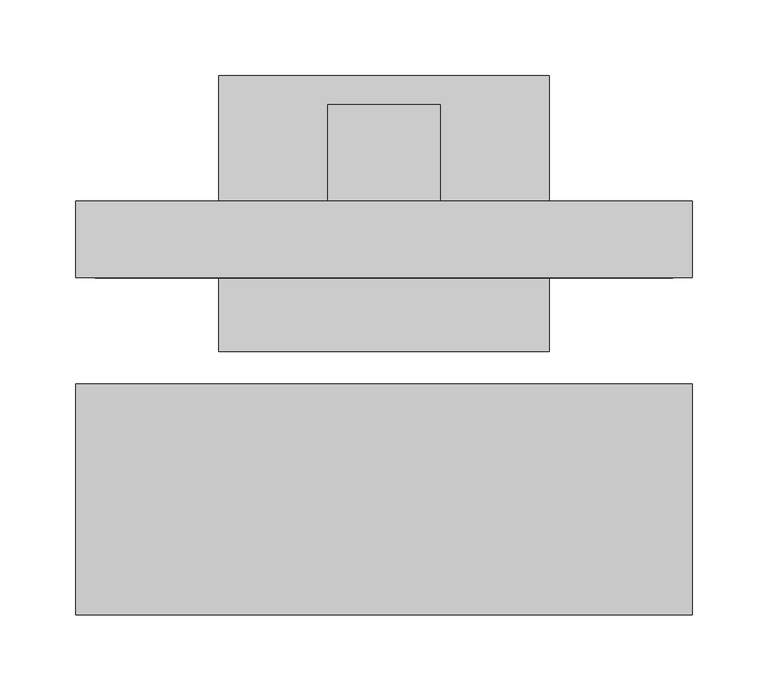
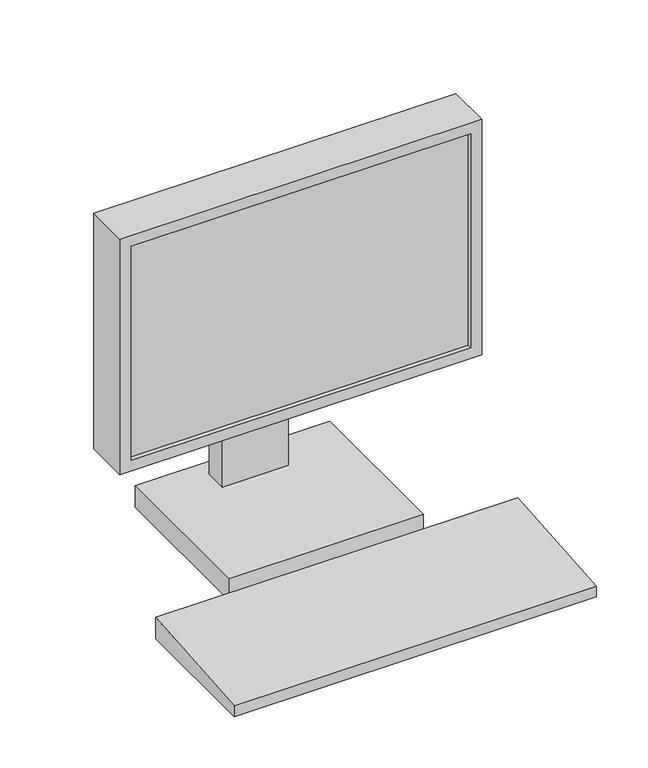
"""IFC4 building model written with IfcOpenShell, lengths in millimetres: proxy geometry, M3150 - Distribution System, Medication, Automatic : M3150 - Distribution System, Medication, Automatic."""

from ifc_helpers import new_model, si_unit, frame, origin, place, context, project, spatial, polyline, outline, extrude, faceted_brep, source, transform, mapped, element, save


def specialty_equipment_54ba1bf3(model_context):
    return source(origin(), model_context, "Body", "SolidModel", [
        faceted_brep([(203.2, -87.8296449, 1495.425), (-203.2, -87.8296449, 1495.425), (-203.2, -138.4610259, 1495.425), (203.2, -138.4610259, 1495.425), (203.2, -87.8296449, 1216.025), (203.2, -138.4610259, 1216.025), (-203.2, -138.4610259, 1216.025), (-203.2, -87.8296449, 1216.025), (-190.5, -138.4610259, 1482.725), (190.5, -138.4610259, 1482.725), (190.5, -138.4610259, 1228.725), (-190.5, -138.4610259, 1228.725), (190.5, -133.6748235, 1482.725), (-190.5, -133.6748235, 1482.725), (190.5, -133.6748235, 1228.725), (-190.5, -133.6748235, 1228.725)], [[[0, 1, 2, 3]], [[4, 5, 6, 7]], [[1, 0, 4, 7]], [[2, 1, 7, 6]], [[3, 2, 6, 5], [8, 9, 10, 11]], [[0, 3, 5, 4]], [[12, 9, 8, 13]], [[14, 15, 11, 10]], [[12, 13, 15, 14]], [[13, 8, 11, 15]], [[9, 12, 14, 10]]]),
        faceted_brep([(109.1218395, -187.0277093, 1089.025), (109.1218395, -187.0277093, 1063.625), (109.1218395, -5.1953354, 1063.625), (109.1218395, -5.1953354, 1089.025), (-109.1218395, -5.1953354, 1089.025), (-109.1218395, -5.1953354, 1063.625), (-109.1218395, -187.0277093, 1063.625), (-109.1218395, -187.0277093, 1089.025), (36.9685686, -24.3296449, 1095.375), (36.9685686, -24.3296449, 1089.025), (-36.9685686, -24.3296449, 1089.025), (-36.9685686, -24.3296449, 1095.375), (36.9685686, -24.3296449, 1355.725), (-36.9685686, -24.3296449, 1355.725), (36.9685686, -87.8296449, 1355.725), (-36.9685686, -87.8296449, 1355.725), (36.9685686, -87.8296449, 1304.925), (-36.9685686, -87.8296449, 1304.925), (36.9685686, -49.7296449, 1304.925), (-36.9685686, -49.7296449, 1304.925), (36.9685686, -49.7296449, 1089.025), (-36.9685686, -49.7296449, 1089.025)], [[[0, 1, 2, 3]], [[4, 5, 6, 7]], [[8, 9, 10, 11]], [[12, 8, 11, 13]], [[14, 12, 13, 15]], [[16, 14, 15, 17]], [[18, 16, 17, 19]], [[20, 18, 19, 21]], [[0, 3, 4, 7], [9, 20, 21, 10]], [[1, 0, 7, 6]], [[2, 1, 6, 5]], [[3, 2, 5, 4]], [[20, 9, 8, 12, 14, 16, 18]], [[10, 21, 19, 17, 15, 13, 11]]]),
        extrude(outline(polyline([(-360.7953354, 1063.625), (-360.7953354, 1076.325), (-208.3953354, 1089.025), (-208.3953354, 1063.625), (-360.7953354, 1063.625)])), frame((-203.2, 0.0, 0.0), z_axis=(1.0, 0.0, 0.0), x_axis=(0.0, 1.0, 0.0)), (0.0, 0.0, 1.0), 406.4),
    ])


if __name__ == "__main__":
    model = new_model("IFC4")
    model_context = context("Model", 3, world=origin())
    ifc_project = project(units=[si_unit("LENGTHUNIT", "METRE", prefix="MILLI")], contexts=[model_context])
    site = spatial("IfcSite", under=ifc_project)
    building = spatial("IfcBuilding", under=site)
    placement = place(None, origin())
    specialty_equipment_shape = specialty_equipment_54ba1bf3(model_context)
    element("IfcBuildingElementProxy", 1, Name="M3150 - Distribution System, Medication, Automatic : M3150 - Distribution System, Medication, Automatic", ObjectType="M3150 - Distribution System, Medication, Automatic : M3150 - Distribution System, Medication, Automatic", at=placement, inside=building, context=model_context, shape_type="MappedRepresentation", body=[
        mapped(specialty_equipment_shape, transform((0.0, 0.0, 0.0), x_axis=(1.0, 0.0, 0.0), y_axis=(0.0, 1.0, 0.0), z_axis=(0.0, 0.0, 1.0))),
    ])
    save(model, "model.ifc")
